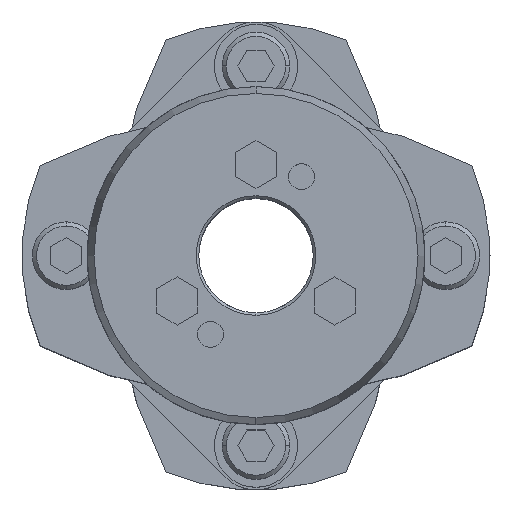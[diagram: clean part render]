
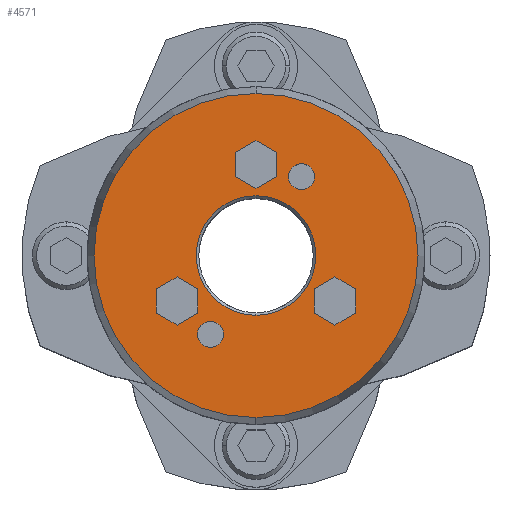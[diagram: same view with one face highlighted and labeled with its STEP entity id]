
A CAD part, top view. The second image highlights one B-rep face of the part: STEP entity #4571.
In plain terms, the highlighted planar face has unit normal (0, 0, 1).
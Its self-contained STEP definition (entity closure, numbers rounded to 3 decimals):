
#2325=CARTESIAN_POINT('',(0.,11.5,52.0));
#2326=VERTEX_POINT('',#2325);
#2342=CARTESIAN_POINT('',(0.,-11.5,52.0));
#2343=VERTEX_POINT('',#2342);
#2350=CARTESIAN_POINT('',(0.,0.,52.0));
#2351=DIRECTION('',(0.0,0.0,1.0));
#2352=DIRECTION('',(0.0,1.0,0.0));
#2353=AXIS2_PLACEMENT_3D('',#2350,#2351,#2352);
#2354=CIRCLE('',#2353,11.5);
#2355=EDGE_CURVE('',#2343,#2326,#2354,.T.);
#2471=CARTESIAN_POINT('',(0.,-31.16,52.0));
#2472=VERTEX_POINT('',#2471);
#2481=CARTESIAN_POINT('',(0.,31.16,52.0));
#2482=VERTEX_POINT('',#2481);
#2483=CARTESIAN_POINT('',(0.,0.,52.0));
#2484=DIRECTION('',(0.0,0.0,-1.0));
#2485=DIRECTION('',(0.0,-1.0,0.0));
#2486=AXIS2_PLACEMENT_3D('',#2483,#2484,#2485);
#2487=CIRCLE('',#2486,31.16);
#2488=EDGE_CURVE('',#2472,#2482,#2487,.T.);
#2805=CARTESIAN_POINT('',(-8.75,-12.655,52.0));
#2806=VERTEX_POINT('',#2805);
#2822=CARTESIAN_POINT('',(-8.75,-17.655,52.0));
#2823=VERTEX_POINT('',#2822);
#2830=CARTESIAN_POINT('',(-8.75,-15.155,52.0));
#2831=DIRECTION('',(0.0,0.0,-1.0));
#2832=DIRECTION('',(0.0,1.0,0.0));
#2833=AXIS2_PLACEMENT_3D('',#2830,#2831,#2832);
#2834=CIRCLE('',#2833,2.5);
#2835=EDGE_CURVE('',#2806,#2823,#2834,.T.);
#2847=CARTESIAN_POINT('',(8.75,17.655,52.0));
#2848=VERTEX_POINT('',#2847);
#2864=CARTESIAN_POINT('',(8.75,12.655,52.0));
#2865=VERTEX_POINT('',#2864);
#2872=CARTESIAN_POINT('',(8.75,15.155,52.0));
#2873=DIRECTION('',(0.0,0.0,-1.0));
#2874=DIRECTION('',(0.0,1.0,0.0));
#2875=AXIS2_PLACEMENT_3D('',#2872,#2873,#2874);
#2876=CIRCLE('',#2875,2.5);
#2877=EDGE_CURVE('',#2848,#2865,#2876,.T.);
#2960=CARTESIAN_POINT('',(8.75,15.155,52.0));
#2961=DIRECTION('',(0.0,0.0,-1.0));
#2962=DIRECTION('',(0.0,1.0,0.0));
#2963=AXIS2_PLACEMENT_3D('',#2960,#2961,#2962);
#2964=CIRCLE('',#2963,2.5);
#2965=EDGE_CURVE('',#2865,#2848,#2964,.T.);
#2994=CARTESIAN_POINT('',(-8.75,-15.155,52.0));
#2995=DIRECTION('',(0.0,0.0,-1.0));
#2996=DIRECTION('',(0.0,1.0,0.0));
#2997=AXIS2_PLACEMENT_3D('',#2994,#2995,#2996);
#2998=CIRCLE('',#2997,2.5);
#2999=EDGE_CURVE('',#2823,#2806,#2998,.T.);
#3037=CARTESIAN_POINT('',(15.155,-4.131,52.0));
#3038=VERTEX_POINT('',#3037);
#3045=CARTESIAN_POINT('',(11.155,-6.441,52.0));
#3046=VERTEX_POINT('',#3045);
#3047=CARTESIAN_POINT('',(11.155,-6.441,52.0));
#3048=DIRECTION('',(0.866,0.5,0.0));
#3049=VECTOR('',#3048,4.619);
#3050=LINE('',#3047,#3049);
#3051=EDGE_CURVE('',#3046,#3038,#3050,.T.);
#3075=CARTESIAN_POINT('',(19.155,-6.441,52.0));
#3076=VERTEX_POINT('',#3075);
#3083=CARTESIAN_POINT('',(15.155,-4.131,52.0));
#3084=DIRECTION('',(0.866,-0.5,0.0));
#3085=VECTOR('',#3084,4.619);
#3086=LINE('',#3083,#3085);
#3087=EDGE_CURVE('',#3038,#3076,#3086,.T.);
#3106=CARTESIAN_POINT('',(19.155,-11.059,52.0));
#3107=VERTEX_POINT('',#3106);
#3114=CARTESIAN_POINT('',(19.155,-6.441,52.0));
#3115=DIRECTION('',(0.0,-1.0,0.0));
#3116=VECTOR('',#3115,4.619);
#3117=LINE('',#3114,#3116);
#3118=EDGE_CURVE('',#3076,#3107,#3117,.T.);
#3137=CARTESIAN_POINT('',(15.155,-13.369,52.0));
#3138=VERTEX_POINT('',#3137);
#3145=CARTESIAN_POINT('',(19.155,-11.059,52.0));
#3146=DIRECTION('',(-0.866,-0.5,0.0));
#3147=VECTOR('',#3146,4.619);
#3148=LINE('',#3145,#3147);
#3149=EDGE_CURVE('',#3107,#3138,#3148,.T.);
#3168=CARTESIAN_POINT('',(11.155,-11.059,52.0));
#3169=VERTEX_POINT('',#3168);
#3176=CARTESIAN_POINT('',(15.155,-13.369,52.0));
#3177=DIRECTION('',(-0.866,0.5,0.0));
#3178=VECTOR('',#3177,4.619);
#3179=LINE('',#3176,#3178);
#3180=EDGE_CURVE('',#3138,#3169,#3179,.T.);
#3198=CARTESIAN_POINT('',(11.155,-11.059,52.0));
#3199=DIRECTION('',(0.0,1.0,0.0));
#3200=VECTOR('',#3199,4.619);
#3201=LINE('',#3198,#3200);
#3202=EDGE_CURVE('',#3169,#3046,#3201,.T.);
#3237=CARTESIAN_POINT('',(0.,22.119,52.0));
#3238=VERTEX_POINT('',#3237);
#3245=CARTESIAN_POINT('',(-4.,19.809,52.0));
#3246=VERTEX_POINT('',#3245);
#3247=CARTESIAN_POINT('',(-4.,19.809,52.0));
#3248=DIRECTION('',(0.866,0.5,0.0));
#3249=VECTOR('',#3248,4.619);
#3250=LINE('',#3247,#3249);
#3251=EDGE_CURVE('',#3246,#3238,#3250,.T.);
#3275=CARTESIAN_POINT('',(4.,19.809,52.0));
#3276=VERTEX_POINT('',#3275);
#3283=CARTESIAN_POINT('',(0.,22.119,52.0));
#3284=DIRECTION('',(0.866,-0.5,0.0));
#3285=VECTOR('',#3284,4.619);
#3286=LINE('',#3283,#3285);
#3287=EDGE_CURVE('',#3238,#3276,#3286,.T.);
#3306=CARTESIAN_POINT('',(4.,15.191,52.0));
#3307=VERTEX_POINT('',#3306);
#3314=CARTESIAN_POINT('',(4.,19.809,52.0));
#3315=DIRECTION('',(0.0,-1.0,0.0));
#3316=VECTOR('',#3315,4.619);
#3317=LINE('',#3314,#3316);
#3318=EDGE_CURVE('',#3276,#3307,#3317,.T.);
#3337=CARTESIAN_POINT('',(0.,12.881,52.0));
#3338=VERTEX_POINT('',#3337);
#3345=CARTESIAN_POINT('',(4.,15.191,52.0));
#3346=DIRECTION('',(-0.866,-0.5,0.0));
#3347=VECTOR('',#3346,4.619);
#3348=LINE('',#3345,#3347);
#3349=EDGE_CURVE('',#3307,#3338,#3348,.T.);
#3368=CARTESIAN_POINT('',(-4.,15.191,52.0));
#3369=VERTEX_POINT('',#3368);
#3376=CARTESIAN_POINT('',(0.,12.881,52.0));
#3377=DIRECTION('',(-0.866,0.5,0.0));
#3378=VECTOR('',#3377,4.619);
#3379=LINE('',#3376,#3378);
#3380=EDGE_CURVE('',#3338,#3369,#3379,.T.);
#3398=CARTESIAN_POINT('',(-4.,15.191,52.0));
#3399=DIRECTION('',(0.0,1.0,0.0));
#3400=VECTOR('',#3399,4.619);
#3401=LINE('',#3398,#3400);
#3402=EDGE_CURVE('',#3369,#3246,#3401,.T.);
#3437=CARTESIAN_POINT('',(-15.155,-4.131,52.0));
#3438=VERTEX_POINT('',#3437);
#3445=CARTESIAN_POINT('',(-19.155,-6.441,52.0));
#3446=VERTEX_POINT('',#3445);
#3447=CARTESIAN_POINT('',(-19.155,-6.441,52.0));
#3448=DIRECTION('',(0.866,0.5,0.0));
#3449=VECTOR('',#3448,4.619);
#3450=LINE('',#3447,#3449);
#3451=EDGE_CURVE('',#3446,#3438,#3450,.T.);
#3475=CARTESIAN_POINT('',(-11.155,-6.441,52.0));
#3476=VERTEX_POINT('',#3475);
#3483=CARTESIAN_POINT('',(-15.155,-4.131,52.0));
#3484=DIRECTION('',(0.866,-0.5,0.0));
#3485=VECTOR('',#3484,4.619);
#3486=LINE('',#3483,#3485);
#3487=EDGE_CURVE('',#3438,#3476,#3486,.T.);
#3506=CARTESIAN_POINT('',(-11.155,-11.059,52.0));
#3507=VERTEX_POINT('',#3506);
#3514=CARTESIAN_POINT('',(-11.155,-6.441,52.0));
#3515=DIRECTION('',(0.0,-1.0,0.0));
#3516=VECTOR('',#3515,4.619);
#3517=LINE('',#3514,#3516);
#3518=EDGE_CURVE('',#3476,#3507,#3517,.T.);
#3537=CARTESIAN_POINT('',(-15.155,-13.369,52.0));
#3538=VERTEX_POINT('',#3537);
#3545=CARTESIAN_POINT('',(-11.155,-11.059,52.0));
#3546=DIRECTION('',(-0.866,-0.5,0.0));
#3547=VECTOR('',#3546,4.619);
#3548=LINE('',#3545,#3547);
#3549=EDGE_CURVE('',#3507,#3538,#3548,.T.);
#3568=CARTESIAN_POINT('',(-19.155,-11.059,52.0));
#3569=VERTEX_POINT('',#3568);
#3576=CARTESIAN_POINT('',(-15.155,-13.369,52.0));
#3577=DIRECTION('',(-0.866,0.5,0.0));
#3578=VECTOR('',#3577,4.619);
#3579=LINE('',#3576,#3578);
#3580=EDGE_CURVE('',#3538,#3569,#3579,.T.);
#3598=CARTESIAN_POINT('',(-19.155,-11.059,52.0));
#3599=DIRECTION('',(0.0,1.0,0.0));
#3600=VECTOR('',#3599,4.619);
#3601=LINE('',#3598,#3600);
#3602=EDGE_CURVE('',#3569,#3446,#3601,.T.);
#4510=CARTESIAN_POINT('',(0.,0.,52.0));
#4511=DIRECTION('',(0.0,0.0,-1.0));
#4512=DIRECTION('',(0.0,-1.0,0.0));
#4513=AXIS2_PLACEMENT_3D('',#4510,#4511,#4512);
#4514=CIRCLE('',#4513,31.16);
#4515=EDGE_CURVE('',#2482,#2472,#4514,.T.);
#4520=CARTESIAN_POINT('',(0.,2.682,52.0));
#4521=DIRECTION('',(0.0,0.0,1.0));
#4522=DIRECTION('',(0.0,1.0,0.0));
#4523=AXIS2_PLACEMENT_3D('',#4520,#4521,#4522);
#4524=PLANE('',#4523);
#4525=ORIENTED_EDGE('',*,*,#4515,.F.);
#4526=ORIENTED_EDGE('',*,*,#2488,.F.);
#4527=EDGE_LOOP('',(#4525,#4526));
#4528=FACE_OUTER_BOUND('',#4527,.T.);
#4529=ORIENTED_EDGE('',*,*,#2877,.T.);
#4530=ORIENTED_EDGE('',*,*,#2965,.T.);
#4531=EDGE_LOOP('',(#4529,#4530));
#4532=FACE_BOUND('',#4531,.T.);
#4533=ORIENTED_EDGE('',*,*,#2835,.T.);
#4534=ORIENTED_EDGE('',*,*,#2999,.T.);
#4535=EDGE_LOOP('',(#4533,#4534));
#4536=FACE_BOUND('',#4535,.T.);
#4537=ORIENTED_EDGE('',*,*,#3051,.T.);
#4538=ORIENTED_EDGE('',*,*,#3087,.T.);
#4539=ORIENTED_EDGE('',*,*,#3118,.T.);
#4540=ORIENTED_EDGE('',*,*,#3149,.T.);
#4541=ORIENTED_EDGE('',*,*,#3180,.T.);
#4542=ORIENTED_EDGE('',*,*,#3202,.T.);
#4543=EDGE_LOOP('',(#4537,#4538,#4539,#4540,#4541,#4542));
#4544=FACE_BOUND('',#4543,.T.);
#4545=ORIENTED_EDGE('',*,*,#3251,.T.);
#4546=ORIENTED_EDGE('',*,*,#3287,.T.);
#4547=ORIENTED_EDGE('',*,*,#3318,.T.);
#4548=ORIENTED_EDGE('',*,*,#3349,.T.);
#4549=ORIENTED_EDGE('',*,*,#3380,.T.);
#4550=ORIENTED_EDGE('',*,*,#3402,.T.);
#4551=EDGE_LOOP('',(#4545,#4546,#4547,#4548,#4549,#4550));
#4552=FACE_BOUND('',#4551,.T.);
#4553=ORIENTED_EDGE('',*,*,#3451,.T.);
#4554=ORIENTED_EDGE('',*,*,#3487,.T.);
#4555=ORIENTED_EDGE('',*,*,#3518,.T.);
#4556=ORIENTED_EDGE('',*,*,#3549,.T.);
#4557=ORIENTED_EDGE('',*,*,#3580,.T.);
#4558=ORIENTED_EDGE('',*,*,#3602,.T.);
#4559=EDGE_LOOP('',(#4553,#4554,#4555,#4556,#4557,#4558));
#4560=FACE_BOUND('',#4559,.T.);
#4561=ORIENTED_EDGE('',*,*,#2355,.F.);
#4562=CARTESIAN_POINT('',(0.,0.,52.0));
#4563=DIRECTION('',(0.0,0.0,1.0));
#4564=DIRECTION('',(0.0,1.0,0.0));
#4565=AXIS2_PLACEMENT_3D('',#4562,#4563,#4564);
#4566=CIRCLE('',#4565,11.5);
#4567=EDGE_CURVE('',#2326,#2343,#4566,.T.);
#4568=ORIENTED_EDGE('',*,*,#4567,.F.);
#4569=EDGE_LOOP('',(#4561,#4568));
#4570=FACE_BOUND('',#4569,.T.);
#4571=ADVANCED_FACE('',(#4528,#4532,#4536,#4544,#4552,#4560,#4570),#4524,.T.);
